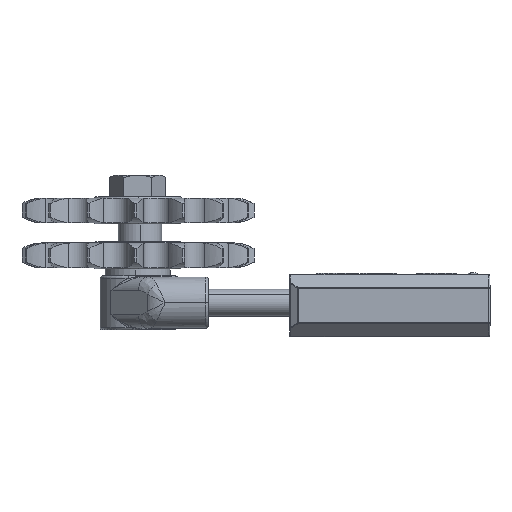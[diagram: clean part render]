
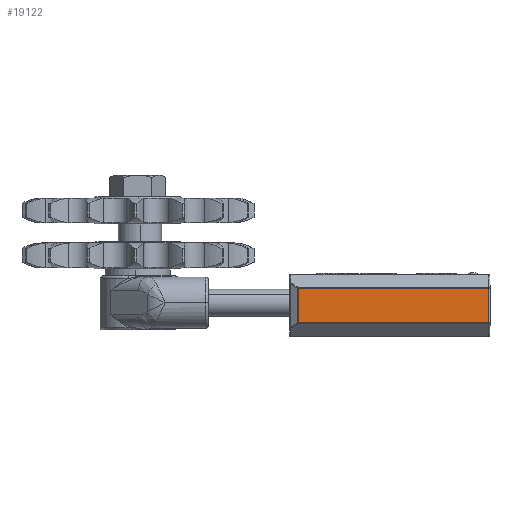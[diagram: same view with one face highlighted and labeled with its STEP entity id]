
A CAD part, left-side view. The second image highlights one B-rep face of the part: STEP entity #19122.
In plain terms, the highlighted planar face has unit normal (-1, 0, 0) as drawn and (1, 0, 0) by its records, which use the part's own axes.
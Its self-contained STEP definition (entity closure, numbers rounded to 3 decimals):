
#657 = CARTESIAN_POINT ( 'NONE',  ( 25., -34., 5.293 ) ) ;
#1023 = VERTEX_POINT ( 'NONE', #3903 ) ;
#1529 = LINE ( 'NONE', #20241, #32891 ) ;
#2069 = LINE ( 'NONE', #22995, #22615 ) ;
#2102 = ORIENTED_EDGE ( 'NONE', *, *, #30081, .T. ) ;
#2486 = CARTESIAN_POINT ( 'NONE',  ( 25., 37., -7.293 ) ) ;
#3903 = CARTESIAN_POINT ( 'NONE',  ( 25., -33.842, 5.293 ) ) ;
#5976 = FACE_OUTER_BOUND ( 'NONE', #18812, .T. ) ;
#7544 = CARTESIAN_POINT ( 'NONE',  ( 25., -33.842, -7.293 ) ) ;
#8131 = LINE ( 'NONE', #2486, #15376 ) ;
#9018 = DIRECTION ( 'NONE',  ( 0., 0., 1. ) ) ;
#9600 = VECTOR ( 'NONE', #11067, 1000. ) ;
#9745 = ORIENTED_EDGE ( 'NONE', *, *, #24844, .T. ) ;
#10524 = EDGE_CURVE ( 'NONE', #15271, #13820, #1529, .T. ) ;
#11067 = DIRECTION ( 'NONE',  ( 0., -1., 0. ) ) ;
#11504 = CARTESIAN_POINT ( 'NONE',  ( 25., 36.5, 5.293 ) ) ;
#12416 = DIRECTION ( 'NONE',  ( 0., 0., 1. ) ) ;
#12469 = DIRECTION ( 'NONE',  ( 0., 1., 0. ) ) ;
#13820 = VERTEX_POINT ( 'NONE', #11504 ) ;
#14545 = DIRECTION ( 'NONE',  ( -1., 0., 0. ) ) ;
#15219 = VERTEX_POINT ( 'NONE', #7544 ) ;
#15271 = VERTEX_POINT ( 'NONE', #26385 ) ;
#15376 = VECTOR ( 'NONE', #12469, 1000. ) ;
#18123 = DIRECTION ( 'NONE',  ( 0., 0., -1. ) ) ;
#18812 = EDGE_LOOP ( 'NONE', ( #2102, #21275, #9745, #31291 ) ) ;
#19122 = ADVANCED_FACE ( 'NONE', ( #5976 ), #32417, .F. ) ;
#20241 = CARTESIAN_POINT ( 'NONE',  ( 25., 36.5, 10.5 ) ) ;
#21275 = ORIENTED_EDGE ( 'NONE', *, *, #10524, .T. ) ;
#22117 = AXIS2_PLACEMENT_3D ( 'NONE', #27195, #14545, #9018 ) ;
#22615 = VECTOR ( 'NONE', #18123, 1000. ) ;
#22995 = CARTESIAN_POINT ( 'NONE',  ( 25., -33.842, -7.5 ) ) ;
#23348 = LINE ( 'NONE', #657, #9600 ) ;
#23747 = EDGE_CURVE ( 'NONE', #1023, #15219, #2069, .T. ) ;
#24844 = EDGE_CURVE ( 'NONE', #13820, #1023, #23348, .T. ) ;
#26385 = CARTESIAN_POINT ( 'NONE',  ( 25., 36.5, -7.293 ) ) ;
#27195 = CARTESIAN_POINT ( 'NONE',  ( 25., 37., 10.5 ) ) ;
#30081 = EDGE_CURVE ( 'NONE', #15219, #15271, #8131, .T. ) ;
#31291 = ORIENTED_EDGE ( 'NONE', *, *, #23747, .T. ) ;
#32417 = PLANE ( 'NONE',  #22117 ) ;
#32891 = VECTOR ( 'NONE', #12416, 1000. ) ;
